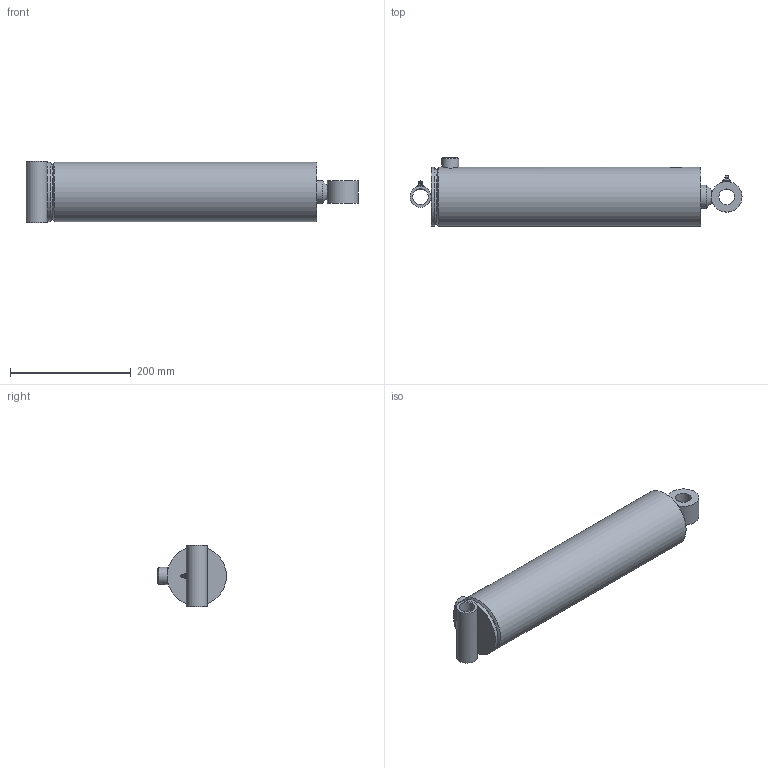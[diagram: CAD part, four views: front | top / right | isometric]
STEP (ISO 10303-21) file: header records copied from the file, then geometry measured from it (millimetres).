
FILE_DESCRIPTION((''),'2;1');
FILE_NAME('C:\Vault\Workspace\Vest\PMC-5512.stp','2009-07-29T14:45:24',('newtonb'),(''),'Autodesk Inventor 2008','Autodesk Inventor 2008','');
FILE_SCHEMA(('AUTOMOTIVE_DESIGN { 1 0 10303 214 1 1 1 1 }'));
Length unit declared in the file: inch
Products named in the file (23): PMC-5512V; 061700025V; 051700040V; 161700005V; 200014404V; 210400024V; 020800258V; 010800789V; 210400528V; 071700016V; 081700326V; 220000210V; 240004007V; 240063338V; 240000338V; 240000022V; 240061338V; 240020059V; 230001350V; 200018003V; 270010002V; 270010020V; 250001222V
Assembly tree (25 placements, depth 3):
  PMC-5512V
    061700025V
      051700040V
      161700005V
      200014404V
      210400024V
    020800258V
      010800789V
      210400528V
    071700016V
    081700326V
    220000210V
    240004007V
    240063338V  x2
    240000338V  x2
    240000022V
    240061338V
    240020059V
    230001350V
    200018003V  x2
    270010002V
    270010020V
    250001222V
Bounding box: 550.86 x 114.3 x 101.6 mm (x, y, z)
Volume: 1780515.6 mm3; surface area: 484578.4 mm2
Topology: 23 solids, 23 shells, 257 faces, 526 edges, 319 vertices
Faces by surface type: plane 114, cylinder 62, cone 35, torus 23, bspline 21, sphere 2
Full cylindrical faces by diameter (mm): 1.143 x2, 1.524 x2, 3.175 x2, 6.074 x1, 8.839 x1, 9.08 x1, 12.7 x1, 23.813 x1, 25.349 x1, 25.476 x1, 25.908 x1, 26.162 x1, 27.965 x1, 28.575 x1, 34.925 x1, 38.1 x2, 38.176 x2, 39.052 x1, 41.91 x1, 46.025 x2, 46.673 x1, 47.625 x1, 50.8 x1, 53.975 x1, 69.342 x1, 79.375 x2, 79.451 x1, 80.01 x1, 80.061 x1, 80.264 x1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
Entity records: 7289 total; most frequent: CARTESIAN_POINT 2211, DIRECTION 1006, ORIENTED_EDGE 680, AXIS2_PLACEMENT_3D 456, EDGE_LOOP 406, EDGE_CURVE 340, VERTEX_POINT 274, FACE_OUTER_BOUND 234
